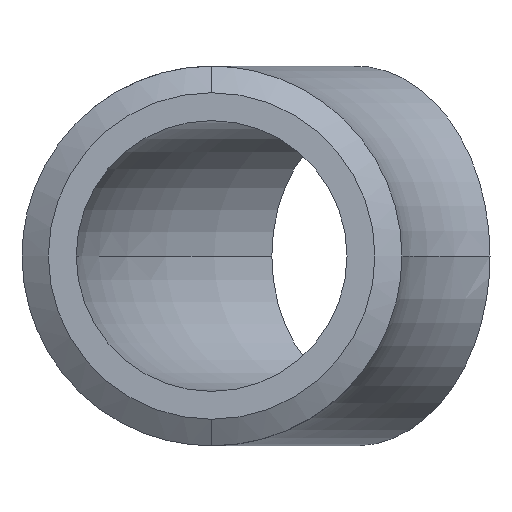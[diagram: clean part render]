
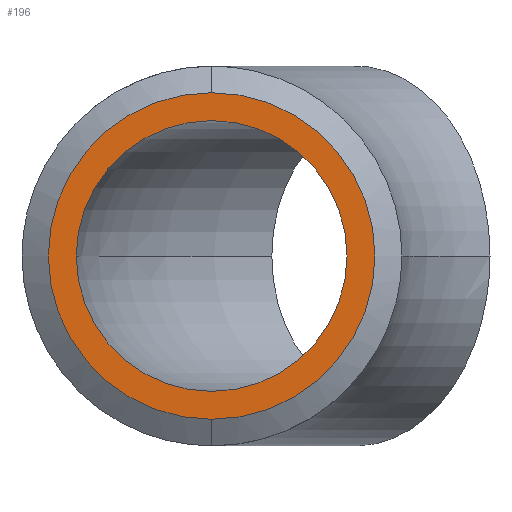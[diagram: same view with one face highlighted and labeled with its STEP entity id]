
A CAD part, front view. The second image highlights one B-rep face of the part: STEP entity #196.
In plain terms, the highlighted planar face has unit normal (0, -1, 0).
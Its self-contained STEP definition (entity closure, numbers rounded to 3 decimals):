
#18 = EDGE_CURVE ( 'NONE', #85, #343, #267, .T. ) ;
#25 = EDGE_CURVE ( 'NONE', #434, #305, #178, .T. ) ;
#35 = DIRECTION ( 'NONE',  ( 0., 0., 1. ) ) ;
#43 = ORIENTED_EDGE ( 'NONE', *, *, #373, .F. ) ;
#61 = AXIS2_PLACEMENT_3D ( 'NONE', #383, #490, #321 ) ;
#67 = EDGE_LOOP ( 'NONE', ( #432, #169 ) ) ;
#85 = VERTEX_POINT ( 'NONE', #98 ) ;
#89 = CARTESIAN_POINT ( 'NONE',  ( 0., 0., 0. ) ) ;
#98 = CARTESIAN_POINT ( 'NONE',  ( 0., 0., 11.7 ) ) ;
#125 = CARTESIAN_POINT ( 'NONE',  ( 0., 0., 0. ) ) ;
#128 = AXIS2_PLACEMENT_3D ( 'NONE', #440, #360, #234 ) ;
#140 = CARTESIAN_POINT ( 'NONE',  ( 0., 0., -11.7 ) ) ;
#142 = EDGE_CURVE ( 'NONE', #305, #434, #417, .T. ) ;
#151 = EDGE_LOOP ( 'NONE', ( #351, #43 ) ) ;
#154 = FACE_OUTER_BOUND ( 'NONE', #151, .T. ) ;
#169 = ORIENTED_EDGE ( 'NONE', *, *, #142, .F. ) ;
#178 = CIRCLE ( 'NONE', #286, 9.7 ) ;
#194 = AXIS2_PLACEMENT_3D ( 'NONE', #89, #320, #35 ) ;
#196 = ADVANCED_FACE ( 'NONE', ( #316, #154 ), #430, .F. ) ;
#197 = DIRECTION ( 'NONE',  ( 0., -1., 0. ) ) ;
#204 = DIRECTION ( 'NONE',  ( 0., 1., 0. ) ) ;
#234 = DIRECTION ( 'NONE',  ( 0., 0., 1. ) ) ;
#267 = CIRCLE ( 'NONE', #128, 11.7 ) ;
#286 = AXIS2_PLACEMENT_3D ( 'NONE', #125, #197, #402 ) ;
#287 = CIRCLE ( 'NONE', #61, 11.7 ) ;
#302 = AXIS2_PLACEMENT_3D ( 'NONE', #357, #204, #428 ) ;
#305 = VERTEX_POINT ( 'NONE', #391 ) ;
#316 = FACE_BOUND ( 'NONE', #67, .T. ) ;
#320 = DIRECTION ( 'NONE',  ( 0., -1., 0. ) ) ;
#321 = DIRECTION ( 'NONE',  ( 0., 0., 1. ) ) ;
#343 = VERTEX_POINT ( 'NONE', #140 ) ;
#351 = ORIENTED_EDGE ( 'NONE', *, *, #18, .F. ) ;
#357 = CARTESIAN_POINT ( 'NONE',  ( 0., 0., 0. ) ) ;
#360 = DIRECTION ( 'NONE',  ( 0., 1., 0. ) ) ;
#373 = EDGE_CURVE ( 'NONE', #343, #85, #287, .T. ) ;
#383 = CARTESIAN_POINT ( 'NONE',  ( 0., 0., 0. ) ) ;
#391 = CARTESIAN_POINT ( 'NONE',  ( -9.7, 0., 0. ) ) ;
#402 = DIRECTION ( 'NONE',  ( 0., 0., 1. ) ) ;
#417 = CIRCLE ( 'NONE', #194, 9.7 ) ;
#428 = DIRECTION ( 'NONE',  ( 0., 0., 1. ) ) ;
#430 = PLANE ( 'NONE',  #302 ) ;
#432 = ORIENTED_EDGE ( 'NONE', *, *, #25, .F. ) ;
#434 = VERTEX_POINT ( 'NONE', #504 ) ;
#440 = CARTESIAN_POINT ( 'NONE',  ( 0., 0., 0. ) ) ;
#490 = DIRECTION ( 'NONE',  ( 0., 1., 0. ) ) ;
#504 = CARTESIAN_POINT ( 'NONE',  ( 9.7, 0., 0. ) ) ;
